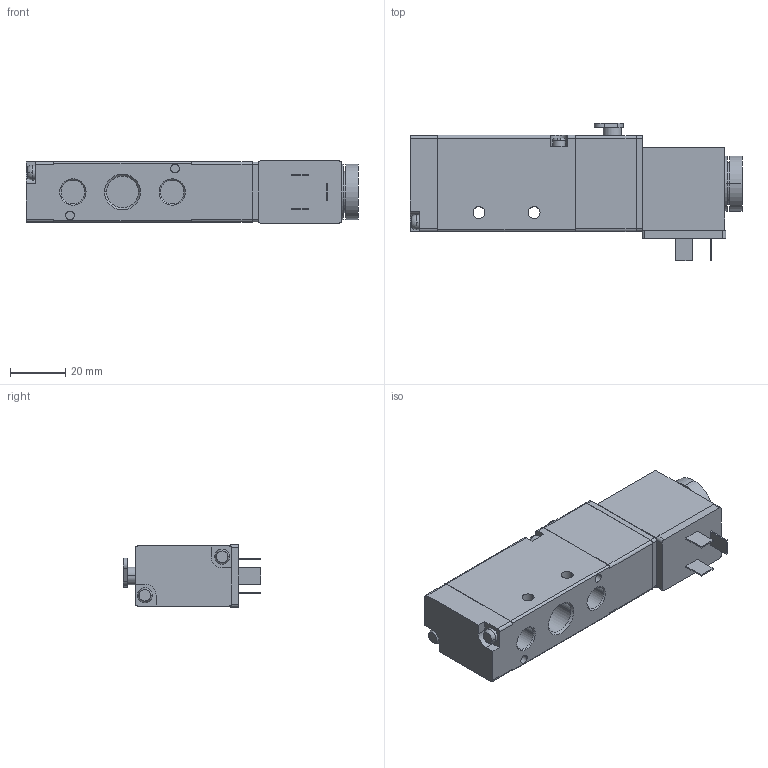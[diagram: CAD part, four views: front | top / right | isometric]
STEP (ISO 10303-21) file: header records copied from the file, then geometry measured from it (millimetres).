
FILE_DESCRIPTION (( 'STEP AP203' ), '1' );
FILE_NAME ('VB5221-05D-02.STEP', '2021-11-26T10:48:09', ( '' ), ( '' ), 'SwSTEP 2.0', 'SolidWorks 2019', '' );
FILE_SCHEMA (( 'CONFIG_CONTROL_DESIGN' ));
Length unit declared in the file: millimetre
Products named in the file (1): VB5221-05D-02
Bounding box: 120.4 x 49.9 x 22.6 mm (x, y, z)
Volume: 82742.9 mm3; surface area: 18272.2 mm2
Topology: 1 solids, 1 shells, 189 faces, 473 edges, 302 vertices
Faces by surface type: plane 104, cylinder 63, cone 10, torus 8, sphere 4
Entity records: 5854 total; most frequent: CARTESIAN_POINT 1137, DIRECTION 1011, ORIENTED_EDGE 938, EDGE_CURVE 469, AXIS2_PLACEMENT_3D 368, VERTEX_POINT 302, VECTOR 275, LINE 275
